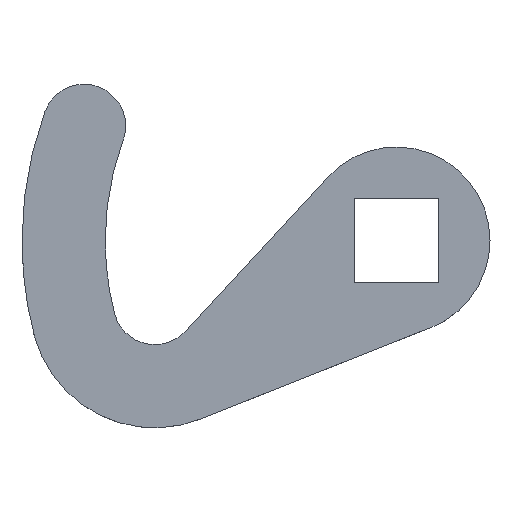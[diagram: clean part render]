
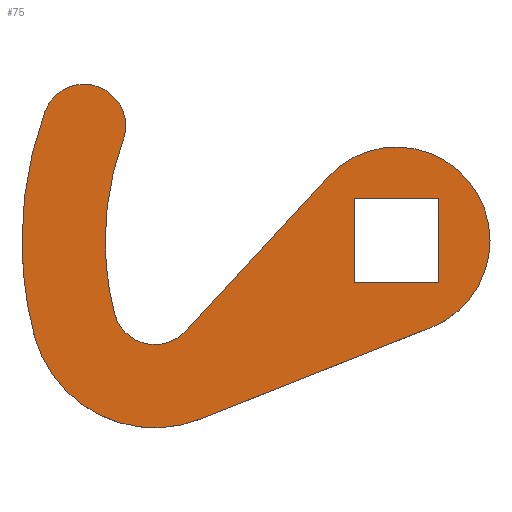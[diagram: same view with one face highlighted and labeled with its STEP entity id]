
A CAD part, top view. The second image highlights one B-rep face of the part: STEP entity #75.
In plain terms, the highlighted planar face has unit normal (0, 0, 1).
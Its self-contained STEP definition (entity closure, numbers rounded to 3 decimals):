
#10 = EDGE_CURVE ( 'NONE', #11, #12, #213, .T. ) ;
#11 = VERTEX_POINT ( 'NONE', #204 ) ;
#12 = VERTEX_POINT ( 'NONE', #203 ) ;
#75 = ADVANCED_FACE ( 'NONE', ( #250, #249 ), #373, .T. ) ;
#76 = EDGE_LOOP ( 'NONE', ( #77, #80, #109, #115, #118, #121, #123, #124, #104, #92 ) ) ;
#77 = ORIENTED_EDGE ( 'NONE', *, *, #78, .T. ) ;
#78 = EDGE_CURVE ( 'NONE', #98, #79, #378, .T. ) ;
#79 = VERTEX_POINT ( 'NONE', #340 ) ;
#80 = ORIENTED_EDGE ( 'NONE', *, *, #107, .T. ) ;
#82 = EDGE_CURVE ( 'NONE', #114, #98, #362, .T. ) ;
#90 = EDGE_CURVE ( 'NONE', #91, #95, #442, .T. ) ;
#91 = VERTEX_POINT ( 'NONE', #438 ) ;
#92 = ORIENTED_EDGE ( 'NONE', *, *, #82, .T. ) ;
#93 = ORIENTED_EDGE ( 'NONE', *, *, #94, .F. ) ;
#94 = EDGE_CURVE ( 'NONE', #95, #96, #437, .T. ) ;
#95 = VERTEX_POINT ( 'NONE', #406 ) ;
#96 = VERTEX_POINT ( 'NONE', #405 ) ;
#97 = ORIENTED_EDGE ( 'NONE', *, *, #90, .F. ) ;
#98 = VERTEX_POINT ( 'NONE', #404 ) ;
#103 = EDGE_CURVE ( 'NONE', #12, #125, #458, .T. ) ;
#104 = ORIENTED_EDGE ( 'NONE', *, *, #105, .T. ) ;
#105 = EDGE_CURVE ( 'NONE', #125, #114, #453, .T. ) ;
#106 = EDGE_LOOP ( 'NONE', ( #93, #97, #175, #173 ) ) ;
#107 = EDGE_CURVE ( 'NONE', #79, #108, #448, .T. ) ;
#108 = VERTEX_POINT ( 'NONE', #444 ) ;
#109 = ORIENTED_EDGE ( 'NONE', *, *, #110, .T. ) ;
#110 = EDGE_CURVE ( 'NONE', #108, #111, #443, .T. ) ;
#111 = VERTEX_POINT ( 'NONE', #334 ) ;
#114 = VERTEX_POINT ( 'NONE', #331 ) ;
#115 = ORIENTED_EDGE ( 'NONE', *, *, #116, .T. ) ;
#116 = EDGE_CURVE ( 'NONE', #111, #117, #397, .T. ) ;
#117 = VERTEX_POINT ( 'NONE', #393 ) ;
#118 = ORIENTED_EDGE ( 'NONE', *, *, #119, .T. ) ;
#119 = EDGE_CURVE ( 'NONE', #117, #120, #392, .T. ) ;
#120 = VERTEX_POINT ( 'NONE', #387 ) ;
#121 = ORIENTED_EDGE ( 'NONE', *, *, #122, .T. ) ;
#122 = EDGE_CURVE ( 'NONE', #120, #11, #386, .T. ) ;
#123 = ORIENTED_EDGE ( 'NONE', *, *, #10, .T. ) ;
#124 = ORIENTED_EDGE ( 'NONE', *, *, #103, .T. ) ;
#125 = VERTEX_POINT ( 'NONE', #381 ) ;
#173 = ORIENTED_EDGE ( 'NONE', *, *, #174, .F. ) ;
#174 = EDGE_CURVE ( 'NONE', #96, #177, #481, .T. ) ;
#175 = ORIENTED_EDGE ( 'NONE', *, *, #176, .F. ) ;
#176 = EDGE_CURVE ( 'NONE', #177, #91, #486, .T. ) ;
#177 = VERTEX_POINT ( 'NONE', #507 ) ;
#203 = CARTESIAN_POINT ( 'NONE',  ( 391.045, 56.819, 3. ) ) ;
#204 = CARTESIAN_POINT ( 'NONE',  ( 389.326, 47.16, 3. ) ) ;
#205 = DIRECTION ( 'NONE',  ( 1., 0., 0. ) ) ;
#206 = DIRECTION ( 'NONE',  ( 0., 0., -1. ) ) ;
#207 = CARTESIAN_POINT ( 'NONE',  ( 417.326, 47.16, 3. ) ) ;
#208 = AXIS2_PLACEMENT_3D ( 'NONE', #207, #206, #205 ) ;
#213 = CIRCLE ( 'NONE', #208, 28. ) ;
#249 = FACE_BOUND ( 'NONE', #106, .T. ) ;
#250 = FACE_OUTER_BOUND ( 'NONE', #76, .T. ) ;
#318 = AXIS2_PLACEMENT_3D ( 'NONE', #399, #339, #379 ) ;
#320 = DIRECTION ( 'NONE',  ( 1., 0., 0. ) ) ;
#321 = DIRECTION ( 'NONE',  ( 0., 0., 1. ) ) ;
#331 = CARTESIAN_POINT ( 'NONE',  ( 381.326, 47.16, 3. ) ) ;
#334 = CARTESIAN_POINT ( 'NONE',  ( 410.715, 53.267, 3. ) ) ;
#335 = DIRECTION ( 'NONE',  ( 1., 0., 0. ) ) ;
#336 = DIRECTION ( 'NONE',  ( 0., 0., 1. ) ) ;
#337 = CARTESIAN_POINT ( 'NONE',  ( 417.326, 47.16, 3. ) ) ;
#338 = AXIS2_PLACEMENT_3D ( 'NONE', #337, #336, #335 ) ;
#339 = DIRECTION ( 'NONE',  ( 0., 0., 1. ) ) ;
#340 = CARTESIAN_POINT ( 'NONE',  ( 398.514, 30.007, 3. ) ) ;
#360 = CARTESIAN_POINT ( 'NONE',  ( 417.326, 47.16, 3. ) ) ;
#361 = AXIS2_PLACEMENT_3D ( 'NONE', #360, #321, #320 ) ;
#362 = CIRCLE ( 'NONE', #361, 36. ) ;
#373 = PLANE ( 'NONE',  #318 ) ;
#374 = DIRECTION ( 'NONE',  ( 1., 0., 0. ) ) ;
#375 = DIRECTION ( 'NONE',  ( 0., 0., 1. ) ) ;
#376 = CARTESIAN_POINT ( 'NONE',  ( 394.086, 41.16, 3. ) ) ;
#377 = AXIS2_PLACEMENT_3D ( 'NONE', #376, #375, #374 ) ;
#378 = CIRCLE ( 'NONE', #377, 12. ) ;
#379 = DIRECTION ( 'NONE',  ( 1., 0., 0. ) ) ;
#381 = CARTESIAN_POINT ( 'NONE',  ( 383.536, 59.579, 3. ) ) ;
#382 = DIRECTION ( 'NONE',  ( 1., 0., 0. ) ) ;
#383 = DIRECTION ( 'NONE',  ( 0., 0., -1. ) ) ;
#384 = CARTESIAN_POINT ( 'NONE',  ( 417.326, 47.16, 3. ) ) ;
#385 = AXIS2_PLACEMENT_3D ( 'NONE', #384, #383, #382 ) ;
#386 = CIRCLE ( 'NONE', #385, 28. ) ;
#387 = CARTESIAN_POINT ( 'NONE',  ( 390.25, 40.023, 3. ) ) ;
#388 = DIRECTION ( 'NONE',  ( 1., 0., 0. ) ) ;
#389 = DIRECTION ( 'NONE',  ( 0., 0., -1. ) ) ;
#390 = CARTESIAN_POINT ( 'NONE',  ( 394.086, 41.16, 3. ) ) ;
#391 = AXIS2_PLACEMENT_3D ( 'NONE', #390, #389, #388 ) ;
#392 = CIRCLE ( 'NONE', #391, 4. ) ;
#393 = CARTESIAN_POINT ( 'NONE',  ( 397.024, 38.446, 3. ) ) ;
#394 = DIRECTION ( 'NONE',  ( -0.679, -0.735, 0. ) ) ;
#395 = VECTOR ( 'NONE', #394, 1000. ) ;
#396 = CARTESIAN_POINT ( 'NONE',  ( 397.024, 38.446, 3. ) ) ;
#397 = LINE ( 'NONE', #396, #395 ) ;
#399 = CARTESIAN_POINT ( 'NONE',  ( 394.086, 41.16, 3. ) ) ;
#404 = CARTESIAN_POINT ( 'NONE',  ( 382.539, 37.892, 3. ) ) ;
#405 = CARTESIAN_POINT ( 'NONE',  ( 413.276, 51.21, 3. ) ) ;
#406 = CARTESIAN_POINT ( 'NONE',  ( 421.376, 51.21, 3. ) ) ;
#407 = DIRECTION ( 'NONE',  ( -1., 0., 0. ) ) ;
#408 = VECTOR ( 'NONE', #407, 1000. ) ;
#436 = CARTESIAN_POINT ( 'NONE',  ( 413.276, 51.21, 3. ) ) ;
#437 = LINE ( 'NONE', #436, #408 ) ;
#438 = CARTESIAN_POINT ( 'NONE',  ( 421.376, 43.11, 3. ) ) ;
#439 = DIRECTION ( 'NONE',  ( 0., 1., 0. ) ) ;
#440 = VECTOR ( 'NONE', #439, 1000. ) ;
#441 = CARTESIAN_POINT ( 'NONE',  ( 421.376, 51.21, 3. ) ) ;
#442 = LINE ( 'NONE', #441, #440 ) ;
#443 = CIRCLE ( 'NONE', #338, 9. ) ;
#444 = CARTESIAN_POINT ( 'NONE',  ( 420.647, 38.795, 3. ) ) ;
#445 = DIRECTION ( 'NONE',  ( 0.929, 0.369, 0. ) ) ;
#446 = VECTOR ( 'NONE', #445, 1000. ) ;
#447 = CARTESIAN_POINT ( 'NONE',  ( 398.514, 30.007, 3. ) ) ;
#448 = LINE ( 'NONE', #447, #446 ) ;
#449 = DIRECTION ( 'NONE',  ( 1., 0., 0. ) ) ;
#450 = DIRECTION ( 'NONE',  ( 0., 0., 1. ) ) ;
#451 = CARTESIAN_POINT ( 'NONE',  ( 417.326, 47.16, 3. ) ) ;
#452 = AXIS2_PLACEMENT_3D ( 'NONE', #451, #450, #449 ) ;
#453 = CIRCLE ( 'NONE', #452, 36. ) ;
#454 = DIRECTION ( 'NONE',  ( 1., 0., 0. ) ) ;
#455 = DIRECTION ( 'NONE',  ( 0., 0., 1. ) ) ;
#456 = CARTESIAN_POINT ( 'NONE',  ( 387.29, 58.199, 3. ) ) ;
#457 = AXIS2_PLACEMENT_3D ( 'NONE', #456, #455, #454 ) ;
#458 = CIRCLE ( 'NONE', #457, 4. ) ;
#480 = CARTESIAN_POINT ( 'NONE',  ( 413.276, 43.11, 3. ) ) ;
#481 = LINE ( 'NONE', #480, #488 ) ;
#484 = VECTOR ( 'NONE', #508, 1000. ) ;
#485 = CARTESIAN_POINT ( 'NONE',  ( 421.376, 43.11, 3. ) ) ;
#486 = LINE ( 'NONE', #485, #484 ) ;
#487 = DIRECTION ( 'NONE',  ( 0., -1., 0. ) ) ;
#488 = VECTOR ( 'NONE', #487, 1000. ) ;
#507 = CARTESIAN_POINT ( 'NONE',  ( 413.276, 43.11, 3. ) ) ;
#508 = DIRECTION ( 'NONE',  ( 1., 0., 0. ) ) ;
